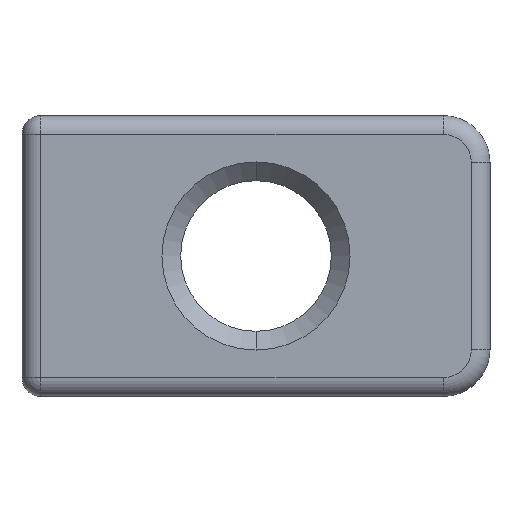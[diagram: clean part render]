
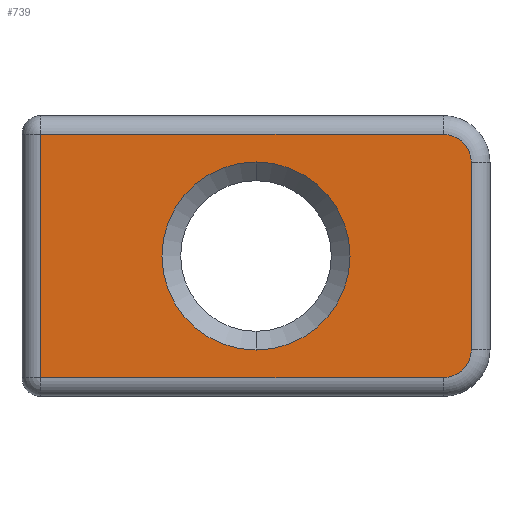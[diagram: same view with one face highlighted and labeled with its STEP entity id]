
A CAD part, front view. The second image highlights one B-rep face of the part: STEP entity #739.
In plain terms, the highlighted planar face has unit normal (0, -1, 0).
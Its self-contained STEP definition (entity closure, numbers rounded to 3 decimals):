
#33 = CARTESIAN_POINT ( 'NONE',  ( 45., 0., 10. ) ) ;
#55 = VERTEX_POINT ( 'NONE', #1183 ) ;
#57 = ORIENTED_EDGE ( 'NONE', *, *, #1292, .T. ) ;
#67 = CIRCLE ( 'NONE', #982, 3. ) ;
#119 = VERTEX_POINT ( 'NONE', #1136 ) ;
#125 = ORIENTED_EDGE ( 'NONE', *, *, #249, .T. ) ;
#131 = FACE_BOUND ( 'NONE', #1168, .T. ) ;
#133 = VERTEX_POINT ( 'NONE', #946 ) ;
#153 = VERTEX_POINT ( 'NONE', #815 ) ;
#167 = DIRECTION ( 'NONE',  ( 0., 0., 1. ) ) ;
#189 = CARTESIAN_POINT ( 'NONE',  ( 25., 0., 0. ) ) ;
#190 = CARTESIAN_POINT ( 'NONE',  ( 2., 0., 13. ) ) ;
#233 = ORIENTED_EDGE ( 'NONE', *, *, #1003, .T. ) ;
#249 = EDGE_CURVE ( 'NONE', #850, #947, #713, .T. ) ;
#282 = CARTESIAN_POINT ( 'NONE',  ( 48., 0., 10. ) ) ;
#283 = DIRECTION ( 'NONE',  ( 0., 0., 1. ) ) ;
#285 = ORIENTED_EDGE ( 'NONE', *, *, #1173, .F. ) ;
#322 = DIRECTION ( 'NONE',  ( 0., 0., 1. ) ) ;
#326 = ORIENTED_EDGE ( 'NONE', *, *, #1340, .T. ) ;
#381 = AXIS2_PLACEMENT_3D ( 'NONE', #518, #1097, #283 ) ;
#390 = ORIENTED_EDGE ( 'NONE', *, *, #1451, .T. ) ;
#395 = LINE ( 'NONE', #544, #502 ) ;
#404 = ORIENTED_EDGE ( 'NONE', *, *, #871, .F. ) ;
#437 = ORIENTED_EDGE ( 'NONE', *, *, #495, .T. ) ;
#453 = DIRECTION ( 'NONE',  ( 0., 0., -1. ) ) ;
#481 = DIRECTION ( 'NONE',  ( -1., 0., 0. ) ) ;
#495 = EDGE_CURVE ( 'NONE', #119, #133, #1401, .T. ) ;
#502 = VECTOR ( 'NONE', #1329, 1000. ) ;
#518 = CARTESIAN_POINT ( 'NONE',  ( 0., 0., 15. ) ) ;
#525 = PLANE ( 'NONE',  #381 ) ;
#537 = VERTEX_POINT ( 'NONE', #750 ) ;
#540 = DIRECTION ( 'NONE',  ( 0., 1., 0. ) ) ;
#544 = CARTESIAN_POINT ( 'NONE',  ( 0., 0., -13. ) ) ;
#605 = CARTESIAN_POINT ( 'NONE',  ( 0., 0., 13. ) ) ;
#618 = LINE ( 'NONE', #1130, #1470 ) ;
#713 = LINE ( 'NONE', #605, #746 ) ;
#715 = VECTOR ( 'NONE', #1239, 1000. ) ;
#726 = AXIS2_PLACEMENT_3D ( 'NONE', #1213, #540, #1327 ) ;
#739 = ADVANCED_FACE ( 'NONE', ( #131, #784 ), #525, .F. ) ;
#746 = VECTOR ( 'NONE', #481, 1000. ) ;
#750 = CARTESIAN_POINT ( 'NONE',  ( 48., 0., -10. ) ) ;
#754 = DIRECTION ( 'NONE',  ( 0., 0., 1. ) ) ;
#761 = DIRECTION ( 'NONE',  ( 0., 1., 0. ) ) ;
#765 = CARTESIAN_POINT ( 'NONE',  ( 25., 0., 0. ) ) ;
#774 = AXIS2_PLACEMENT_3D ( 'NONE', #765, #761, #754 ) ;
#784 = FACE_OUTER_BOUND ( 'NONE', #887, .T. ) ;
#815 = CARTESIAN_POINT ( 'NONE',  ( 45., 0., -13. ) ) ;
#850 = VERTEX_POINT ( 'NONE', #926 ) ;
#871 = EDGE_CURVE ( 'NONE', #537, #153, #943, .T. ) ;
#876 = CIRCLE ( 'NONE', #1415, 10.05 ) ;
#878 = DIRECTION ( 'NONE',  ( 0., 1., 0. ) ) ;
#887 = EDGE_LOOP ( 'NONE', ( #404, #390, #285, #125, #233, #57 ) ) ;
#926 = CARTESIAN_POINT ( 'NONE',  ( 45., 0., 13. ) ) ;
#943 = CIRCLE ( 'NONE', #726, 3. ) ;
#946 = CARTESIAN_POINT ( 'NONE',  ( 25., 0., 10.05 ) ) ;
#947 = VERTEX_POINT ( 'NONE', #190 ) ;
#972 = LINE ( 'NONE', #1440, #715 ) ;
#982 = AXIS2_PLACEMENT_3D ( 'NONE', #33, #878, #167 ) ;
#1003 = EDGE_CURVE ( 'NONE', #947, #55, #618, .T. ) ;
#1010 = DIRECTION ( 'NONE',  ( 0., 1., 0. ) ) ;
#1061 = VERTEX_POINT ( 'NONE', #282 ) ;
#1097 = DIRECTION ( 'NONE',  ( 0., 1., 0. ) ) ;
#1130 = CARTESIAN_POINT ( 'NONE',  ( 2., 0., 15. ) ) ;
#1136 = CARTESIAN_POINT ( 'NONE',  ( 25., 0., -10.05 ) ) ;
#1168 = EDGE_LOOP ( 'NONE', ( #437, #326 ) ) ;
#1173 = EDGE_CURVE ( 'NONE', #850, #1061, #67, .T. ) ;
#1183 = CARTESIAN_POINT ( 'NONE',  ( 2., 0., -13. ) ) ;
#1213 = CARTESIAN_POINT ( 'NONE',  ( 45., 0., -10. ) ) ;
#1239 = DIRECTION ( 'NONE',  ( 0., 0., 1. ) ) ;
#1292 = EDGE_CURVE ( 'NONE', #55, #153, #395, .T. ) ;
#1327 = DIRECTION ( 'NONE',  ( 0., 0., 1. ) ) ;
#1329 = DIRECTION ( 'NONE',  ( 1., 0., 0. ) ) ;
#1340 = EDGE_CURVE ( 'NONE', #133, #119, #876, .T. ) ;
#1401 = CIRCLE ( 'NONE', #774, 10.05 ) ;
#1415 = AXIS2_PLACEMENT_3D ( 'NONE', #189, #1010, #322 ) ;
#1440 = CARTESIAN_POINT ( 'NONE',  ( 48., 0., 15. ) ) ;
#1451 = EDGE_CURVE ( 'NONE', #537, #1061, #972, .T. ) ;
#1470 = VECTOR ( 'NONE', #453, 1000. ) ;
